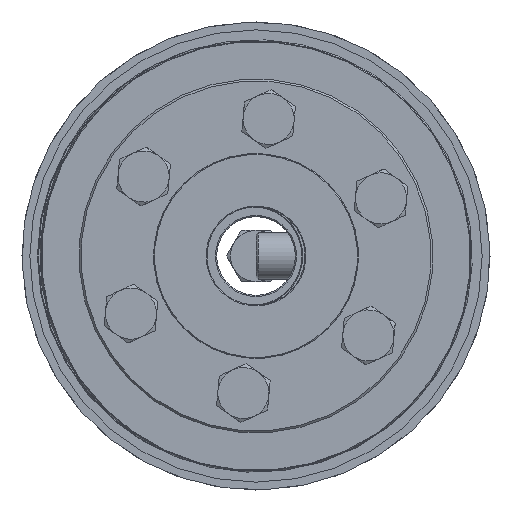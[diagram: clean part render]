
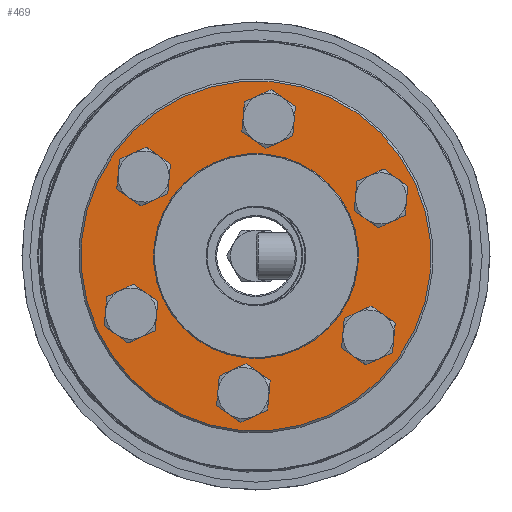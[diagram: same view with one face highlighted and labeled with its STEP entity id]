
A CAD part, left-side view. The second image highlights one B-rep face of the part: STEP entity #469.
In plain terms, the highlighted planar face has unit normal (-1, 0, 0).
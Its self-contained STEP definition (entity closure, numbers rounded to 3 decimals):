
#469 = ADVANCED_FACE( 'NONE', ( #756, #757, #758, #759, #760, #761, #762, #763 ), #764, .F. );
#756 = FACE_OUTER_BOUND( '', #1294, .T. );
#757 = FACE_BOUND( '', #1295, .T. );
#758 = FACE_BOUND( '', #1296, .T. );
#759 = FACE_BOUND( '', #1297, .T. );
#760 = FACE_BOUND( '', #1298, .T. );
#761 = FACE_BOUND( '', #1299, .T. );
#762 = FACE_BOUND( '', #1300, .T. );
#763 = FACE_BOUND( '', #1301, .T. );
#764 = PLANE( '', #1302 );
#1294 = EDGE_LOOP( '', ( #1933 ) );
#1295 = EDGE_LOOP( '', ( #1934 ) );
#1296 = EDGE_LOOP( '', ( #1935 ) );
#1297 = EDGE_LOOP( '', ( #1936 ) );
#1298 = EDGE_LOOP( '', ( #1937 ) );
#1299 = EDGE_LOOP( '', ( #1938 ) );
#1300 = EDGE_LOOP( '', ( #1939 ) );
#1301 = EDGE_LOOP( '', ( #1940 ) );
#1302 = AXIS2_PLACEMENT_3D( '', #1941, #1942, #1943 );
#1933 = ORIENTED_EDGE( '', *, *, #2828, .T. );
#1934 = ORIENTED_EDGE( '', *, *, #2829, .T. );
#1935 = ORIENTED_EDGE( '', *, *, #2830, .T. );
#1936 = ORIENTED_EDGE( '', *, *, #2831, .T. );
#1937 = ORIENTED_EDGE( '', *, *, #2832, .T. );
#1938 = ORIENTED_EDGE( '', *, *, #2824, .T. );
#1939 = ORIENTED_EDGE( '', *, *, #2833, .T. );
#1940 = ORIENTED_EDGE( '', *, *, #2834, .F. );
#1941 = CARTESIAN_POINT( '', ( 0., 26., 0. ) );
#1942 = DIRECTION( '', ( 1., 0., 0. ) );
#1943 = DIRECTION( '', ( 0., 1., 0. ) );
#2824 = EDGE_CURVE( 'NONE', #3089, #3089, #3090, .T. );
#2828 = EDGE_CURVE( 'NONE', #3097, #3097, #3098, .T. );
#2829 = EDGE_CURVE( 'NONE', #3099, #3099, #3100, .T. );
#2830 = EDGE_CURVE( 'NONE', #3101, #3101, #3102, .T. );
#2831 = EDGE_CURVE( 'NONE', #3103, #3103, #3104, .T. );
#2832 = EDGE_CURVE( 'NONE', #3105, #3105, #3106, .T. );
#2833 = EDGE_CURVE( 'NONE', #3107, #3107, #3108, .T. );
#2834 = EDGE_CURVE( 'NONE', #3109, #3109, #3110, .T. );
#3089 = VERTEX_POINT( '', #3539 );
#3090 = CIRCLE( '', #3540, 4.5 );
#3097 = VERTEX_POINT( '', #3547 );
#3098 = CIRCLE( '', #3548, 44.5 );
#3099 = VERTEX_POINT( '', #3549 );
#3100 = CIRCLE( '', #3550, 4.5 );
#3101 = VERTEX_POINT( '', #3551 );
#3102 = CIRCLE( '', #3552, 4.5 );
#3103 = VERTEX_POINT( '', #3553 );
#3104 = CIRCLE( '', #3554, 4.5 );
#3105 = VERTEX_POINT( '', #3555 );
#3106 = CIRCLE( '', #3556, 4.5 );
#3107 = VERTEX_POINT( '', #3557 );
#3108 = CIRCLE( '', #3558, 4.5 );
#3109 = VERTEX_POINT( '', #3559 );
#3110 = CIRCLE( '', #3560, 26. );
#3539 = CARTESIAN_POINT( '', ( 0., 17.5, -34.811 ) );
#3540 = AXIS2_PLACEMENT_3D( '', #4466, #4467, #4468 );
#3547 = CARTESIAN_POINT( '', ( 0., 0., -44.5 ) );
#3548 = AXIS2_PLACEMENT_3D( '', #4478, #4479, #4480 );
#3549 = CARTESIAN_POINT( '', ( 0., 17.5, 25.811 ) );
#3550 = AXIS2_PLACEMENT_3D( '', #4481, #4482, #4483 );
#3551 = CARTESIAN_POINT( '', ( 0., -17.5, 25.811 ) );
#3552 = AXIS2_PLACEMENT_3D( '', #4484, #4485, #4486 );
#3553 = CARTESIAN_POINT( '', ( 0., -35., -4.5 ) );
#3554 = AXIS2_PLACEMENT_3D( '', #4487, #4488, #4489 );
#3555 = CARTESIAN_POINT( '', ( 0., -17.5, -34.811 ) );
#3556 = AXIS2_PLACEMENT_3D( '', #4490, #4491, #4492 );
#3557 = CARTESIAN_POINT( '', ( 0., 35., -4.5 ) );
#3558 = AXIS2_PLACEMENT_3D( '', #4493, #4494, #4495 );
#3559 = CARTESIAN_POINT( '', ( 0., 0., 26. ) );
#3560 = AXIS2_PLACEMENT_3D( '', #4496, #4497, #4498 );
#4466 = CARTESIAN_POINT( '', ( 0., 17.5, -30.311 ) );
#4467 = DIRECTION( '', ( 1., 0., 0. ) );
#4468 = DIRECTION( '', ( 0., 0., -1. ) );
#4478 = CARTESIAN_POINT( '', ( 0., 0., 0. ) );
#4479 = DIRECTION( '', ( -1., 0., 0. ) );
#4480 = DIRECTION( '', ( 0., 0., -1. ) );
#4481 = CARTESIAN_POINT( '', ( 0., 17.5, 30.311 ) );
#4482 = DIRECTION( '', ( 1., 0., 0. ) );
#4483 = DIRECTION( '', ( 0., 0., -1. ) );
#4484 = CARTESIAN_POINT( '', ( 0., -17.5, 30.311 ) );
#4485 = DIRECTION( '', ( 1., 0., 0. ) );
#4486 = DIRECTION( '', ( 0., 0., -1. ) );
#4487 = CARTESIAN_POINT( '', ( 0., -35., 0. ) );
#4488 = DIRECTION( '', ( 1., 0., 0. ) );
#4489 = DIRECTION( '', ( 0., 0., -1. ) );
#4490 = CARTESIAN_POINT( '', ( 0., -17.5, -30.311 ) );
#4491 = DIRECTION( '', ( 1., 0., 0. ) );
#4492 = DIRECTION( '', ( 0., 0., -1. ) );
#4493 = CARTESIAN_POINT( '', ( 0., 35., 0. ) );
#4494 = DIRECTION( '', ( 1., 0., 0. ) );
#4495 = DIRECTION( '', ( 0., 0., -1. ) );
#4496 = CARTESIAN_POINT( '', ( 0., 0., 0. ) );
#4497 = DIRECTION( '', ( -1., 0., 0. ) );
#4498 = DIRECTION( '', ( 0., 0., 1. ) );
